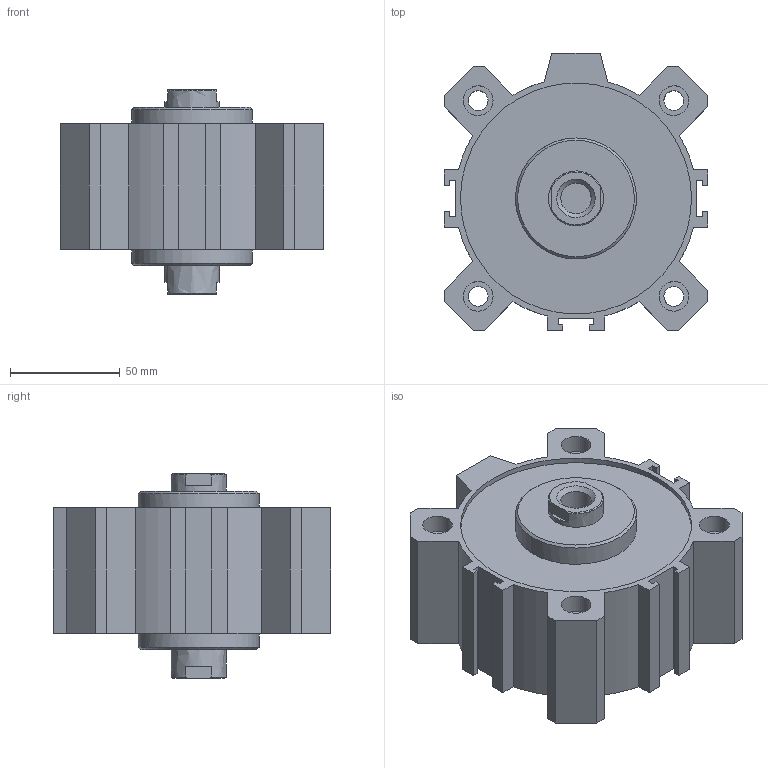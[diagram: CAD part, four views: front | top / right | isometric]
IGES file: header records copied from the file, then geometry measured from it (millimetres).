
Global section: file name: 1514_100_0005; native system: Autodesk Inventor 2014; preprocessor: unknown; author: A. Manieri; date: 20160824.162838; units: millimetre
Bounding box: 120 x 126 x 93 mm (x, y, z)
Volume: 636858.4 mm3; surface area: 125532.9 mm2
Topology: 2 solids, 2 shells, 132 faces, 346 edges, 238 vertices
Faces by surface type: bspline 132
